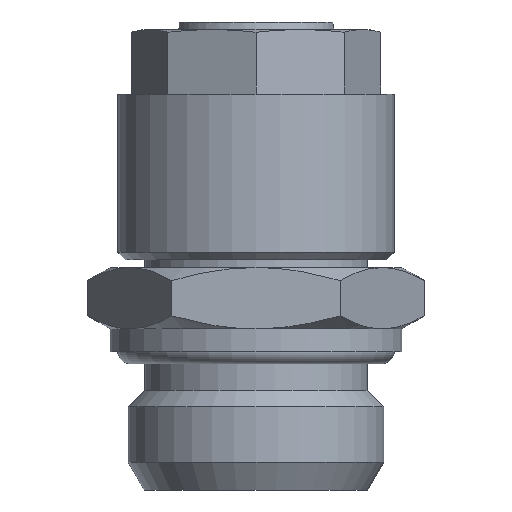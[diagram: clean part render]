
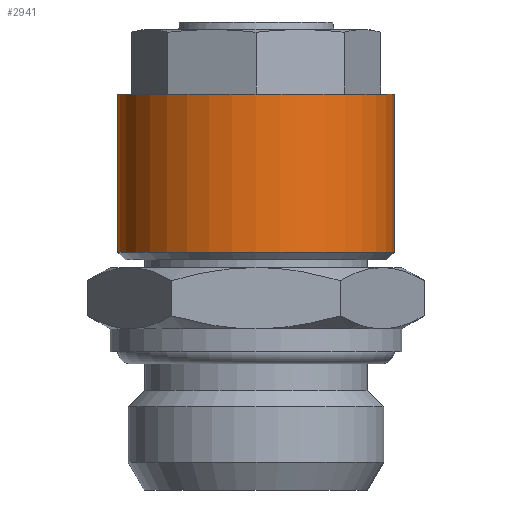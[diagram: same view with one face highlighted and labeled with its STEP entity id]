
A CAD part, front view. The second image highlights one B-rep face of the part: STEP entity #2941.
In plain terms, the highlighted cylindrical face has radius 9 mm (diameter 18 mm), a full revolution.
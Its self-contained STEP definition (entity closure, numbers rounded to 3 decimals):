
#1069=ORIENTED_EDGE('',*,*,#1326,.F.);
#1070=ORIENTED_EDGE('',*,*,#1327,.T.);
#1128=CIRCLE('',#2859,9.);
#1129=CIRCLE('',#2861,9.);
#1210=VERTEX_POINT('',#2683);
#1211=VERTEX_POINT('',#2686);
#1326=EDGE_CURVE('',#1210,#1210,#1128,.T.);
#1327=EDGE_CURVE('',#1211,#1211,#1129,.T.);
#1427=EDGE_LOOP('',(#1069));
#1428=EDGE_LOOP('',(#1070));
#1533=FACE_BOUND('',#1427,.T.);
#1534=FACE_BOUND('',#1428,.T.);
#1552=CYLINDRICAL_SURFACE('',#2860,9.);
#2400=DIRECTION('',(0.,1.,0.));
#2401=DIRECTION('',(0.,0.,-9.));
#2402=DIRECTION('',(0.,1.,0.));
#2403=DIRECTION('',(1.,0.,0.));
#2404=DIRECTION('',(0.,1.,0.));
#2405=DIRECTION('',(0.,0.,9.));
#2683=CARTESIAN_POINT('',(26.989,25.395,-9.));
#2684=CARTESIAN_POINT('',(26.989,25.395,0.));
#2685=CARTESIAN_POINT('',(26.989,15.095,0.));
#2686=CARTESIAN_POINT('',(26.989,15.095,9.));
#2687=CARTESIAN_POINT('',(26.989,15.095,0.));
#2859=AXIS2_PLACEMENT_3D('',#2684,#2400,#2401);
#2860=AXIS2_PLACEMENT_3D('',#2685,#2402,#2403);
#2861=AXIS2_PLACEMENT_3D('',#2687,#2404,#2405);
#2941=ADVANCED_FACE('',(#1533,#1534),#1552,.T.);
